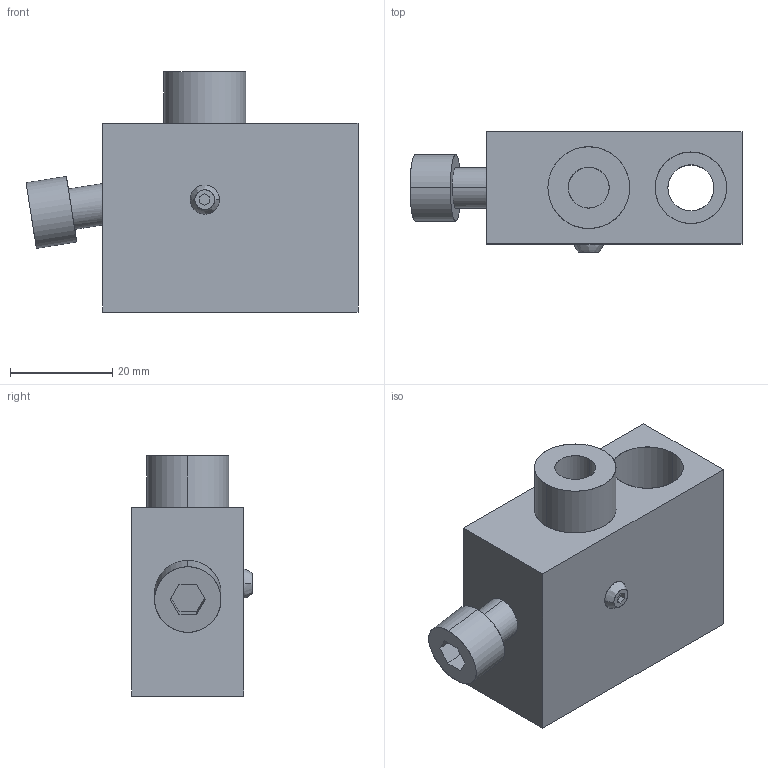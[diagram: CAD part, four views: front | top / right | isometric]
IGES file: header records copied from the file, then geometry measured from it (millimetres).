
Start section: SolidWorks IGES file using analytic representation for surfaces
Global section: file name: X:\11_SW2020-Inv2020\00_全2021-11新製品まで\b\BJ350-08001\bj350-08001.IGS; native system: SolidWorks 2020; preprocessor: SolidWorks 2020; author: ImaoCorp; date: 211025.102401; units: millimetre
Bounding box: 65 x 23.65 x 47 mm (x, y, z)
Surface area: 13261.3 mm2 (no closed solid volume)
Topology: 0 solids, 0 shells, 44 faces, 690 edges, 690 vertices
Faces by surface type: bspline 30, revolution 14
